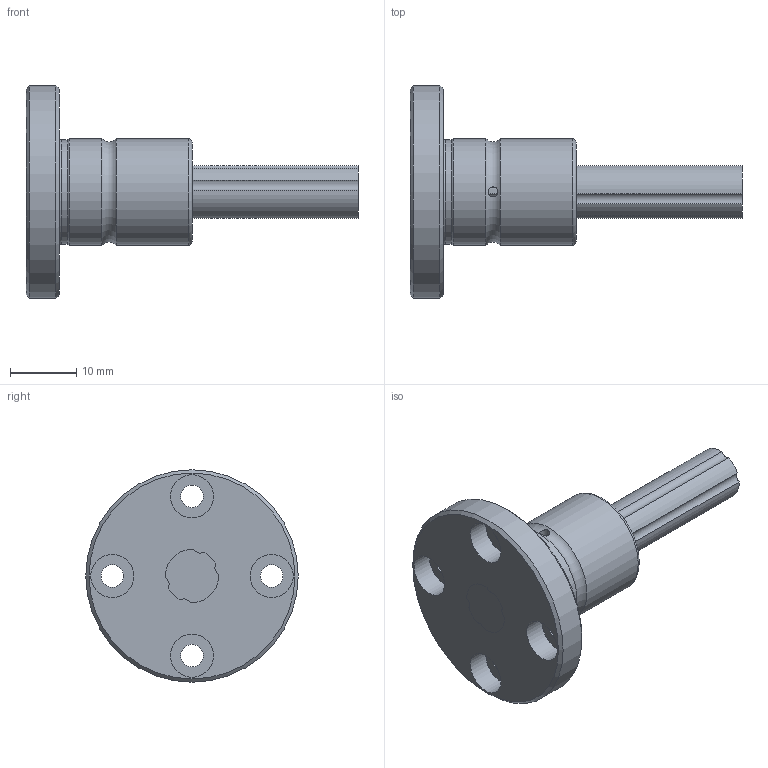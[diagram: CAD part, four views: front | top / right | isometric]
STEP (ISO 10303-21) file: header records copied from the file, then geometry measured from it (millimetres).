
FILE_DESCRIPTION(/* description */ ('STEP AP214'),/* implementation_level */ '2;1');
FILE_NAME(/* name */ 'LF8150(00)',/* time_stamp */ '2024-09-05T14:33:16+02:00',/* author */ ('License CC BY-ND 4.0'),/* organization */ ('CADENAS'),/* preprocessor_version */ 'ST-DEVELOPER v19.3',/* originating_system */ 'PARTsolutions',/* authorisation */ ' ');
FILE_SCHEMA (('AUTOMOTIVE_DESIGN {1 0 10303 214 3 1 1}'));
Length unit declared in the file: millimetre
Products named in the file (3): LF8150(00); LF 850 FTLFShaft; LF 8 FTLF Cylindar
Assembly tree (2 placements, depth 2):
  LF8150(00)
    LF 850 FTLFShaft
    LF 8 FTLF Cylindar
Bounding box: 50 x 32 x 32 mm (x, y, z)
Volume: 8676.6 mm3; surface area: 5289 mm2
Topology: 2 solids, 2 shells, 45 faces, 113 edges, 74 vertices
Faces by surface type: cylinder 30, plane 9, torus 4, cone 2
Full cylindrical faces by diameter (mm): 1.5 x2, 3.4 x4, 6.5 x4, 15.7 x1, 16 x2, 32 x1
Entity records: 1333 total; most frequent: CARTESIAN_POINT 242, DIRECTION 234, ORIENTED_EDGE 168, AXIS2_PLACEMENT_3D 108, EDGE_CURVE 84, EDGE_LOOP 82, FACE_BOUND 82, VERTEX_POINT 66
